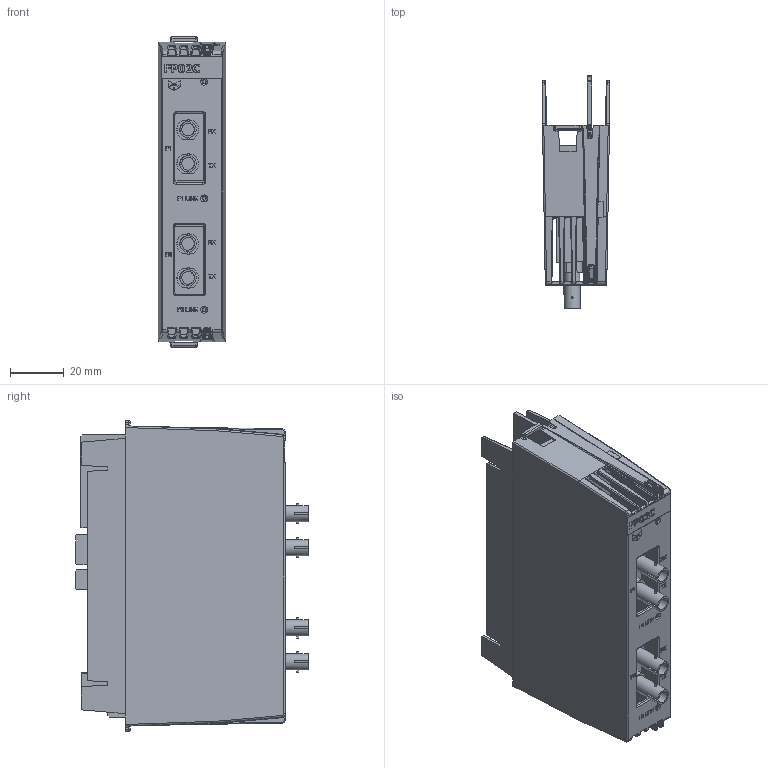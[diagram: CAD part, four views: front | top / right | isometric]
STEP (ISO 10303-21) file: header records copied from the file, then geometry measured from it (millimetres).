
FILE_DESCRIPTION(/* description */ (''),/* implementation_level */ '2;1');
FILE_NAME(/* name */ 'C:\Users\Public\Documents\Autodesk\Inventor 2023\FP02C_Simplified.stp',/* time_stamp */ '2024-10-23T21:27:45+02:00',/* author */ ('shoma'),/* organization */ (''),/* preprocessor_version */ 'ST-DEVELOPER v19',/* originating_system */ 'Autodesk Inventor 2023',/* authorisation */ '');
FILE_SCHEMA (('AUTOMOTIVE_DESIGN { 1 0 10303 214 3 1 1 }'));
Products named in the file (1): FP02C_Simplified
Bounding box: 24.95 x 86.7 x 115.5 mm (x, y, z)
Volume: 108647.2 mm3; surface area: 52523.9 mm2
Topology: 2 solids, 2 shells, 2269 faces, 6124 edges, 3958 vertices
Faces by surface type: plane 1276, cylinder 738, bspline 233, sphere 16, cone 3, torus 3
Full cylindrical faces by diameter (mm): 0.016 x2, 0.3 x2, 0.75 x8, 1 x8, 1.27 x4, 1.9 x2, 2.5 x1, 2.6 x4, 4.75 x4, 6 x4
Entity records: 77460 total; most frequent: CARTESIAN_POINT 18027, ORIENTED_EDGE 12196, DIRECTION 11518, EDGE_CURVE 6098, LINE 4138, VECTOR 4138, VERTEX_POINT 3958, AXIS2_PLACEMENT_3D 3690
